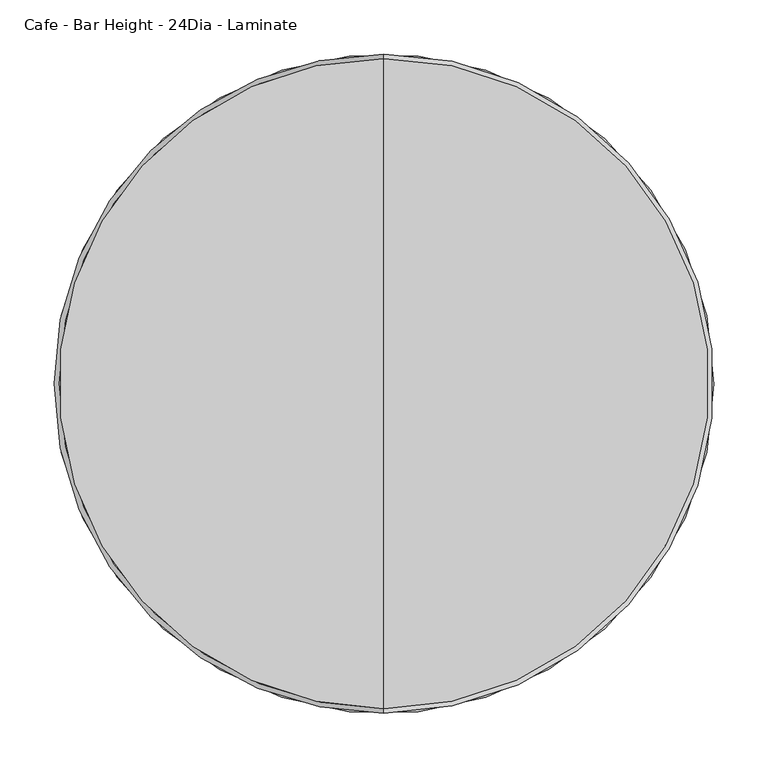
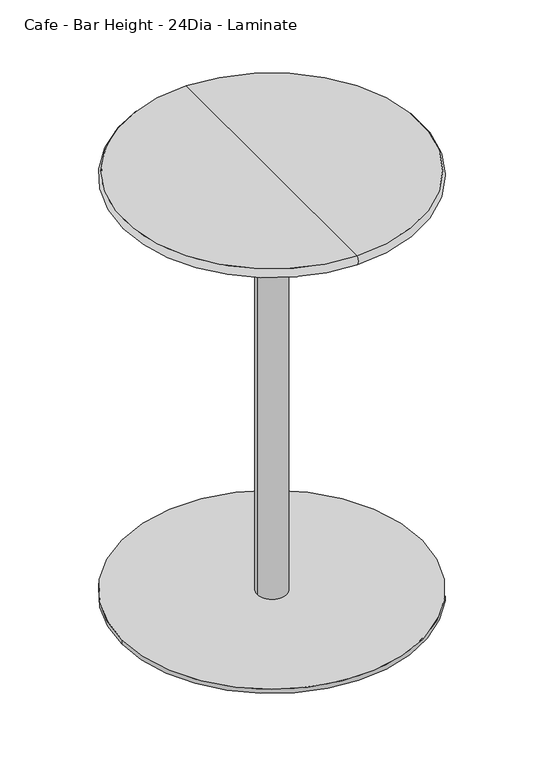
"""IFC4 building model written with IfcOpenShell, lengths in millimetres: furniture geometry, Steelcase Coalesse - Enea - Table - Single Base : Cafe - Bar Height - 24Dia - Laminate."""

from ifc_helpers import new_model, si_unit, point, frame, frame_2d, origin, origin_with_axes, place, context, project, spatial, circle_curve, ellipse_curve, trimmed, segment, composite_curve, outline, extrude, source, transform, mapped, element, save
from ifc_brep_helpers import plane_surface, revolved_surface, advanced_brep


def cafe_bar_height_24dia_laminate_e88cc10e(model_context):
    return source(origin(), model_context, "Body", "SolidModel", [
        extrude(outline(composite_curve([segment(trimmed(circle_curve(frame_2d((537.718, -284.0746893)), 25.4), [point((512.318, -284.0746893))], [point((563.118, -284.0746893))], False, "CARTESIAN"), True, "CONTINUOUS"), segment(trimmed(circle_curve(frame_2d((537.718, -284.0746893)), 25.4), [point((563.118, -284.0746893))], [point((512.318, -284.0746893))], False, "CARTESIAN"), True, "CONTINUOUS")], self_intersect=False)), origin_with_axes(), (0.0, 0.0, 1.0), 6.35),
        extrude(outline(composite_curve([segment(trimmed(circle_curve(frame_2d((791.3613107, -537.3772238)), 25.4), [point((765.9613107, -537.3772238))], [point((816.7613107, -537.3772238))], False, "CARTESIAN"), True, "CONTINUOUS"), segment(trimmed(circle_curve(frame_2d((791.3613107, -537.3772238)), 25.4), [point((816.7613107, -537.3772238))], [point((765.9613107, -537.3772238))], False, "CARTESIAN"), True, "CONTINUOUS")], self_intersect=False)), origin_with_axes(), (0.0, 0.0, 1.0), 6.35),
        extrude(outline(composite_curve([segment(trimmed(circle_curve(frame_2d((284.0746893, -537.3772238)), 25.4), [point((258.6746893, -537.3772238))], [point((309.4746893, -537.3772238))], False, "CARTESIAN"), True, "CONTINUOUS"), segment(trimmed(circle_curve(frame_2d((284.0746893, -537.3772238)), 25.4), [point((309.4746893, -537.3772238))], [point((258.6746893, -537.3772238))], False, "CARTESIAN"), True, "CONTINUOUS")], self_intersect=False)), origin_with_axes(), (0.0, 0.0, 1.0), 6.35),
        extrude(outline(composite_curve([segment(trimmed(circle_curve(frame_2d((537.718, -790.6797584)), 25.4), [point((512.318, -790.6797584))], [point((563.118, -790.6797584))], False, "CARTESIAN"), True, "CONTINUOUS"), segment(trimmed(circle_curve(frame_2d((537.718, -790.6797584)), 25.4), [point((563.118, -790.6797584))], [point((512.318, -790.6797584))], False, "CARTESIAN"), True, "CONTINUOUS")], self_intersect=False)), origin_with_axes(), (0.0, 0.0, 1.0), 6.35),
        advanced_brep(
        [(537.718, -838.2075871, 914.4), (537.718, -237.2284129, 914.4), (537.718, -537.718, 914.4), (537.718, -838.2075871, 895.35), (537.718, -237.2284129, 895.35), (537.718, -537.718, 895.35)],
        [
            (0, 1, circle_curve(frame((537.718, -537.718, 914.4), z_axis=(0.0, 0.0, 1.0), x_axis=(0.0, 1.0, 0.0)), 300.4895871)),
            (1, 2),
            (2, 0),
            (1, 0, circle_curve(frame((537.718, -537.718, 914.4), z_axis=(0.0, 0.0, 1.0), x_axis=(0.0, 1.0, 0.0)), 300.4895871)),
            (3, 4, circle_curve(frame((537.718, -537.718, 895.35), z_axis=(0.0, 0.0, 1.0), x_axis=(0.0, 1.0, 0.0)), 300.4895871)),
            (4, 1, circle_curve(frame((537.718, -245.5968446, 904.875), z_axis=(1.0, 0.0, 0.0), x_axis=(0.0, -1.0, 0.0)), 12.6789697)),
            (0, 3, circle_curve(frame((537.718, -829.8391554, 904.875), z_axis=(1.0, 0.0, 0.0), x_axis=(0.0, 1.0, 0.0)), 12.6789697)),
            (4, 3, circle_curve(frame((537.718, -537.718, 895.35), z_axis=(0.0, 0.0, 1.0), x_axis=(0.0, 1.0, 0.0)), 300.4895871)),
            (5, 4),
            (3, 5),
        ],
        [
            plane_surface(frame((537.718, -537.718, 914.4), z_axis=(0.0, 0.0, 1.0), x_axis=(0.0, 1.0, 0.0))),
            revolved_surface(trimmed(ellipse_curve(frame((537.718, -245.5968446, 904.875), z_axis=(-1.0, 0.0, 0.0), x_axis=(0.0, -1.0, 0.0)), 12.6789697, 12.6789697), [point((537.718, -237.2284129, 914.4))], [point((537.718, -237.2284129, 895.35))], True, "CARTESIAN"), (537.718, -537.718, 955.9678651), (0.0, 0.0, -1.0)),
            plane_surface(frame((537.718, -537.718, 895.35), z_axis=(0.0, 0.0, -1.0), x_axis=(0.0, 1.0, 0.0))),
        ],
        [
            (0, [[1, 2, 3]]),
            (0, [[4, -3, -2]]),
            (1, [[5, 6, -1, 7]]),
            (1, [[8, -7, -4, -6]]),
            (2, [[9, -5, 10]]),
            (2, [[-10, -8, -9]]),
        ],
    ),
        extrude(outline(composite_curve([segment(trimmed(circle_curve(frame_2d((537.718, -537.718)), 304.8), [point((842.518, -537.718))], [point((232.918, -537.718))], False, "CARTESIAN"), True, "CONTINUOUS"), segment(trimmed(circle_curve(frame_2d((537.718, -537.718)), 304.8), [point((232.918, -537.718))], [point((842.518, -537.718))], False, "CARTESIAN"), True, "CONTINUOUS")], self_intersect=False)), frame((0.0, 0.0, 6.35), z_axis=(0.0, 0.0, 1.0), x_axis=(1.0, 0.0, 0.0)), (0.0, 0.0, 1.0), 9.525),
        extrude(outline(composite_curve([segment(trimmed(circle_curve(frame_2d((537.7182907, -537.7179273)), 30.0214725), [point((567.7397632, -537.7179273))], [point((507.6968182, -537.7179273))], False, "CARTESIAN"), True, "CONTINUOUS"), segment(trimmed(circle_curve(frame_2d((537.7182907, -537.7179273)), 30.0214725), [point((507.6968182, -537.7179273))], [point((567.7397632, -537.7179273))], False, "CARTESIAN"), True, "CONTINUOUS")], self_intersect=False)), frame((0.0, 0.0, 15.875), z_axis=(0.0, 0.0, 1.0), x_axis=(1.0, 0.0, 0.0)), (0.0, 0.0, 1.0), 879.475),
    ])


if __name__ == "__main__":
    model = new_model("IFC4")
    model_context = context("Model", 3, world=origin())
    ifc_project = project(units=[si_unit("LENGTHUNIT", "METRE", prefix="MILLI")], contexts=[model_context])
    site = spatial("IfcSite", under=ifc_project)
    building = spatial("IfcBuilding", under=site)
    placement = place(None, origin())
    cafe_bar_height_24dia_laminate_shape = cafe_bar_height_24dia_laminate_e88cc10e(model_context)
    element("IfcFurniture", 1, ObjectType="Steelcase Coalesse - Enea - Table - Single Base : Cafe - Bar Height - 24Dia - Laminate", at=placement, inside=building, context=model_context, shape_type="MappedRepresentation", body=[
        mapped(cafe_bar_height_24dia_laminate_shape, transform((0.0, 0.0, 0.0), x_axis=(1.0, 0.0, 0.0), y_axis=(0.0, 1.0, 0.0), z_axis=(0.0, 0.0, 1.0))),
    ])
    save(model, "model.ifc")
